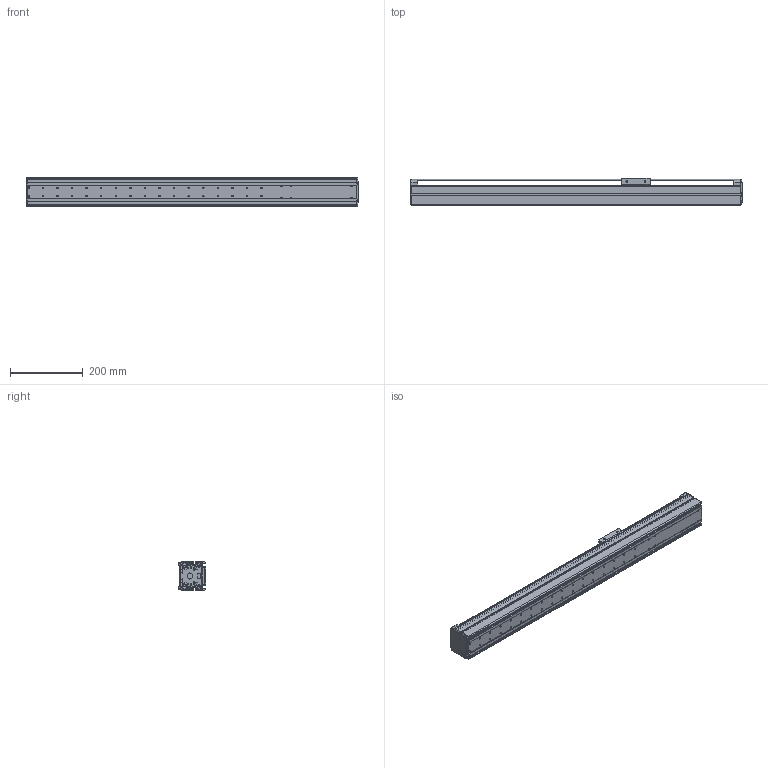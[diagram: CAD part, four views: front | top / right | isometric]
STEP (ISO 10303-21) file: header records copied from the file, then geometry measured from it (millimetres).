
FILE_DESCRIPTION((''),'2;1');
FILE_NAME('BE10E-ST-S_B-55_IGS_PRT','2017-06-17T',(' '),(''),'PRO/ENGINEER BY PARAMETRIC TECHNOLOGY CORPORATION, 2015030','PRO/ENGINEER BY PARAMETRIC TECHNOLOGY CORPORATION, 2015030','');
FILE_SCHEMA(('CONFIG_CONTROL_DESIGN'));
Length unit declared in the file: millimetre
Products named in the file (1): BE10E-ST-S_B-55_IGS_PRT
Bounding box: 910 x 75 x 78 mm (x, y, z)
Volume: 1034847.5 mm3; surface area: 696138.8 mm2
Topology: 3 solids, 71 shells, 1165 faces, 3115 edges, 2024 vertices
Faces by surface type: cylinder 582, plane 430, torus 66, sphere 42, cone 38, bspline 7
Entity records: 37691 total; most frequent: CARTESIAN_POINT 7795, DIRECTION 6502, ORIENTED_EDGE 5928, EDGE_CURVE 3095, AXIS2_PLACEMENT_3D 2460, VERTEX_POINT 2024, VECTOR 1582, LINE 1582
